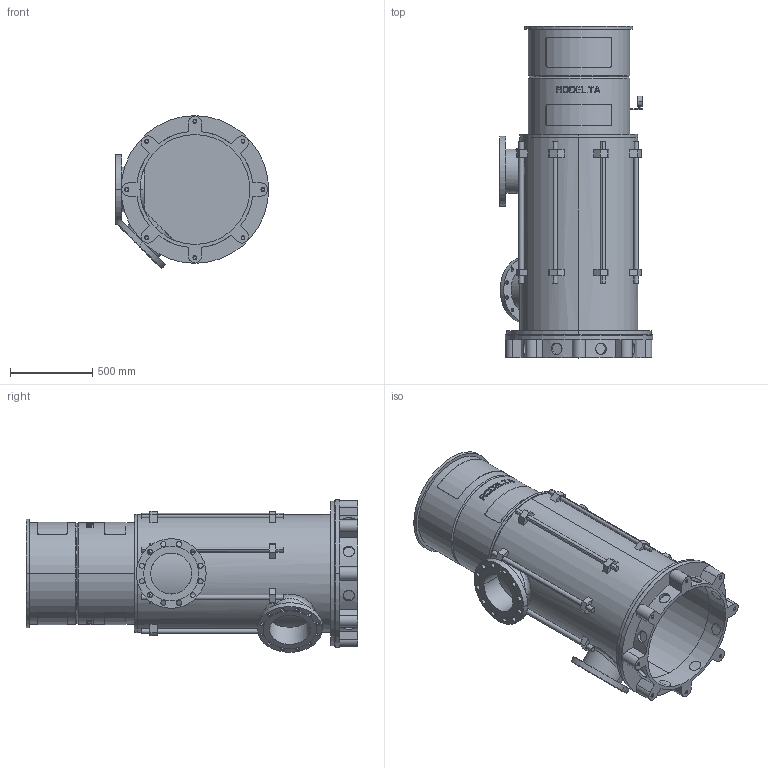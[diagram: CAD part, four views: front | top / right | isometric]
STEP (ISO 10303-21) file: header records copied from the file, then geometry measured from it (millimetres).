
FILE_DESCRIPTION((''),'2;1');
FILE_NAME('LS10_2TR_0GR_P_PN25','2025-10-20T13:21:04',('Lyritlocal'),(''),'CREO PARAMETRIC BY PTC INC, 2022014','CREO PARAMETRIC BY PTC INC, 2022014','');
FILE_SCHEMA(('CONFIG_CONTROL_DESIGN'));
Length unit declared in the file: millimetre
Products named in the file (1): LS10_2TR_0GR_P_PN25
Bounding box: 935 x 2023 x 930.48 mm (x, y, z)
Volume: 90798487.6 mm3; surface area: 12391795.6 mm2
Topology: 3 solids, 11 shells, 752 faces, 1934 edges, 1288 vertices
Faces by surface type: plane 462, cylinder 274, cone 12, bspline 4
Entity records: 24399 total; most frequent: CARTESIAN_POINT 6053, ORIENTED_EDGE 3836, DIRECTION 3662, EDGE_CURVE 1934, AXIS2_PLACEMENT_3D 1381, VERTEX_POINT 1288, EDGE_LOOP 924, VECTOR 900
